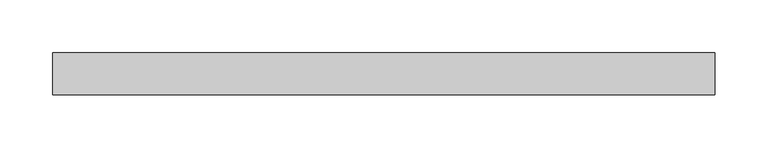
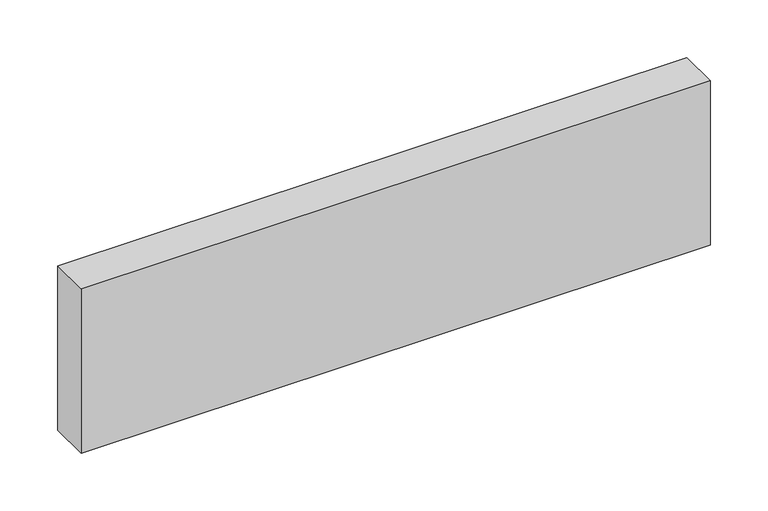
"""IFC4 building model written with IfcOpenShell, lengths in millimetres: plate geometry, Panneau système vide : Epaiss. 4cm."""

from ifc_helpers import new_model, si_unit, origin, origin_with_axes, place, context, project, spatial, polyline, outline, extrude, source, transform, mapped, element, save


def plate_100b6cf1(model_context):
    return source(origin(), model_context, "Body", "SweptSolid", [
        extrude(outline(polyline([(313.8255909, -20.0), (-313.8255909, -20.0), (-313.8255909, 20.0), (313.8255909, 20.0), (313.8255909, -20.0)])), origin_with_axes(), (0.0, 0.0, 1.0), 173.3333333),
    ])


if __name__ == "__main__":
    model = new_model("IFC4")
    model_context = context("Model", 3, world=origin())
    ifc_project = project(units=[si_unit("LENGTHUNIT", "METRE", prefix="MILLI")], contexts=[model_context])
    site = spatial("IfcSite", under=ifc_project)
    building = spatial("IfcBuilding", under=site)
    placement = place(None, origin())
    plate_shape = plate_100b6cf1(model_context)
    element("IfcPlate", 1, ObjectType="Panneau système vide : Epaiss. 4cm", at=placement, inside=building, context=model_context, shape_type="MappedRepresentation", body=[
        mapped(plate_shape, transform((0.0, 0.0, 0.0), x_axis=(1.0, 0.0, 0.0), y_axis=(0.0, 1.0, 0.0), z_axis=(0.0, 0.0, 1.0))),
    ])
    save(model, "model.ifc")
